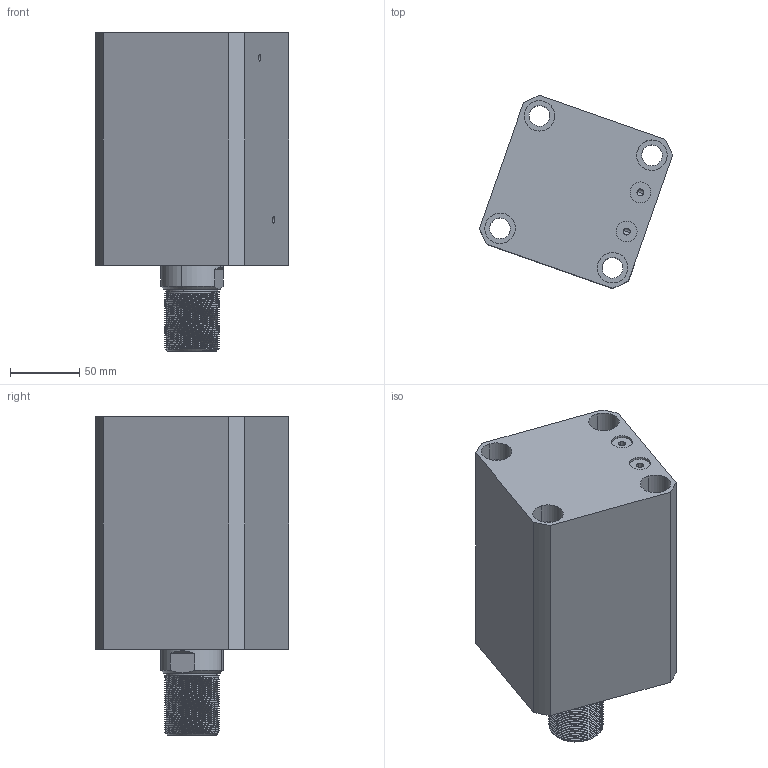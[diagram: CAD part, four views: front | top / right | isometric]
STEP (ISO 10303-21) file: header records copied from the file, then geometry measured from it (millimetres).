
FILE_DESCRIPTION (( 'STEP AP214' ), '1' );
FILE_NAME ('chtb-sdmb80x90w_asm.STEP', '2018-05-26T02:21:37', ( 'Windows' ), ( 'Microsoft' ), 'SwSTEP 2.0', 'SolidWorks 2015', '' );
FILE_SCHEMA (( 'AUTOMOTIVE_DESIGN' ));
Length unit declared in the file: millimetre
Products named in the file (4): CHTB-SDMB80X90NBT; CHTB-SD80X90WHSG; CHTB-SD80QG; chtb-sdmb80x90w_asm
Assembly tree (3 placements, depth 2):
  chtb-sdmb80x90w_asm
    CHTB-SD80QG
    CHTB-SD80X90WHSG
    CHTB-SDMB80X90NBT
Bounding box: 139.3 x 139.3 x 230 mm (x, y, z)
Volume: 1762325.8 mm3; surface area: 249217.7 mm2
Topology: 3 solids, 3 shells, 251 faces, 695 edges, 466 vertices
Faces by surface type: cylinder 163, plane 38, torus 18, bspline 16, cone 16
Entity records: 20297 total; most frequent: CARTESIAN_POINT 14321, ORIENTED_EDGE 1382, DIRECTION 1068, EDGE_CURVE 691, VERTEX_POINT 466, AXIS2_PLACEMENT_3D 433, EDGE_LOOP 289, ADVANCED_FACE 251
